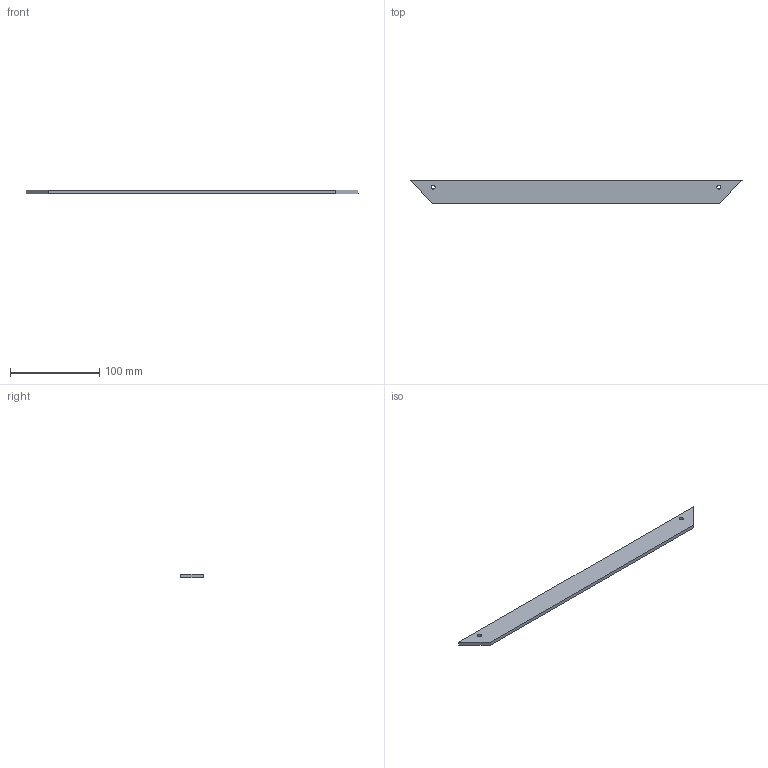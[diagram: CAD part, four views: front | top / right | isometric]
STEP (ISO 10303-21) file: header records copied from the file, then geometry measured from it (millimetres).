
FILE_DESCRIPTION (( 'STEP AP203' ), '1' );
FILE_NAME ('ORW-008.20.210.001 砑鳧罻.STEP', '2025-10-13T13:18:56', ( '燴僽樥' ), ( '' ), 'SwSTEP 2.0', 'SolidWorks 2025', '' );
FILE_SCHEMA (( 'CONFIG_CONTROL_DESIGN' ));
Length unit declared in the file: millimetre
Products named in the file (1): ORW-008.20.210.001 Планка
Bounding box: 372 x 25 x 4 mm (x, y, z)
Volume: 34572.8 mm3; surface area: 20458.3 mm2
Topology: 1 solids, 1 shells, 8 faces, 18 edges, 12 vertices
Faces by surface type: plane 6, cylinder 2
Full cylindrical faces by diameter (mm): 4.5 x2
Entity records: 299 total; most frequent: DIRECTION 38, CARTESIAN_POINT 37, ORIENTED_EDGE 32, EDGE_CURVE 16, EDGE_LOOP 14, AXIS2_PLACEMENT_3D 13, LINE 12, VERTEX_POINT 12
